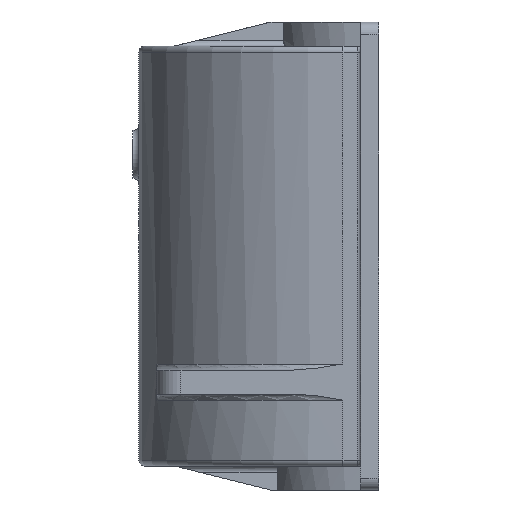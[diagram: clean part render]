
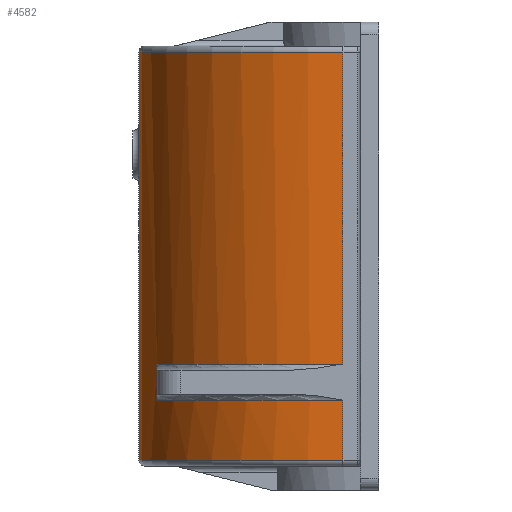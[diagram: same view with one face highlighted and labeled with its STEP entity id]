
A CAD part, left-side view. The second image highlights one B-rep face of the part: STEP entity #4582.
In plain terms, the highlighted cylindrical face has radius 170 mm (diameter 340 mm), a partial arc.
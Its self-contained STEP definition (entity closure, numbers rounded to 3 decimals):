
#386=FACE_OUTER_BOUND('',#629,.T.);
#629=EDGE_LOOP('',(#3449,#3450,#3451,#3452,#3453,#3454,#3455,#3456));
#1030=LINE('',#7316,#1402);
#1034=LINE('',#7337,#1406);
#1035=LINE('',#7342,#1407);
#1036=LINE('',#7344,#1408);
#1402=VECTOR('',#5916,10.);
#1406=VECTOR('',#5920,10.);
#1407=VECTOR('',#5925,10.);
#1408=VECTOR('',#5928,10.);
#1801=CIRCLE('',#4978,170.);
#1822=CIRCLE('',#5008,170.);
#1825=CIRCLE('',#5016,170.);
#1826=CIRCLE('',#5017,170.);
#2083=VERTEX_POINT('',#7187);
#2085=VERTEX_POINT('',#7193);
#2119=VERTEX_POINT('',#7287);
#2120=VERTEX_POINT('',#7291);
#2123=VERTEX_POINT('',#7315);
#2128=VERTEX_POINT('',#7330);
#2129=VERTEX_POINT('',#7339);
#2130=VERTEX_POINT('',#7341);
#2599=EDGE_CURVE('',#2085,#2083,#1801,.T.);
#2644=EDGE_CURVE('',#2119,#2120,#1822,.T.);
#2651=EDGE_CURVE('',#2120,#2123,#1030,.T.);
#2657=EDGE_CURVE('',#2128,#2085,#1034,.T.);
#2658=EDGE_CURVE('',#2129,#2128,#1825,.T.);
#2659=EDGE_CURVE('',#2129,#2130,#1035,.T.);
#2660=EDGE_CURVE('',#2123,#2130,#1826,.T.);
#2661=EDGE_CURVE('',#2083,#2119,#1036,.T.);
#3449=ORIENTED_EDGE('',*,*,#2599,.F.);
#3450=ORIENTED_EDGE('',*,*,#2657,.F.);
#3451=ORIENTED_EDGE('',*,*,#2658,.F.);
#3452=ORIENTED_EDGE('',*,*,#2659,.T.);
#3453=ORIENTED_EDGE('',*,*,#2660,.F.);
#3454=ORIENTED_EDGE('',*,*,#2651,.F.);
#3455=ORIENTED_EDGE('',*,*,#2644,.F.);
#3456=ORIENTED_EDGE('',*,*,#2661,.F.);
#4435=CYLINDRICAL_SURFACE('',#5015,170.);
#4582=ADVANCED_FACE('',(#386),#4435,.T.);
#4978=AXIS2_PLACEMENT_3D('',#7195,#5816,#5817);
#5008=AXIS2_PLACEMENT_3D('',#7293,#5899,#5900);
#5015=AXIS2_PLACEMENT_3D('',#7338,#5921,#5922);
#5016=AXIS2_PLACEMENT_3D('',#7340,#5923,#5924);
#5017=AXIS2_PLACEMENT_3D('',#7343,#5926,#5927);
#5816=DIRECTION('center_axis',(0.,0.,-1.));
#5817=DIRECTION('ref_axis',(-0.707,0.707,0.));
#5899=DIRECTION('center_axis',(0.,0.,1.));
#5900=DIRECTION('ref_axis',(-0.707,0.707,0.));
#5916=DIRECTION('',(0.,0.,-1.));
#5920=DIRECTION('',(0.,0.,-1.));
#5921=DIRECTION('center_axis',(0.,0.,1.));
#5922=DIRECTION('ref_axis',(0.,1.,0.));
#5923=DIRECTION('center_axis',(0.,0.,1.));
#5924=DIRECTION('ref_axis',(-0.84,0.543,0.));
#5925=DIRECTION('',(0.,0.,1.));
#5926=DIRECTION('center_axis',(0.,0.,-1.));
#5927=DIRECTION('ref_axis',(-0.84,0.543,0.));
#5928=DIRECTION('',(0.,0.,1.));
#7187=CARTESIAN_POINT('',(200.,200.,-170.));
#7193=CARTESIAN_POINT('',(30.,30.,-170.));
#7195=CARTESIAN_POINT('Origin',(200.,30.,-170.));
#7287=CARTESIAN_POINT('',(200.,200.,170.));
#7291=CARTESIAN_POINT('',(30.,30.,170.));
#7293=CARTESIAN_POINT('Origin',(200.,30.,170.));
#7315=CARTESIAN_POINT('',(30.,30.,-90.));
#7316=CARTESIAN_POINT('',(30.,30.,0.));
#7330=CARTESIAN_POINT('',(30.,30.,-120.));
#7337=CARTESIAN_POINT('',(30.,30.,0.));
#7338=CARTESIAN_POINT('Origin',(200.,30.,0.));
#7339=CARTESIAN_POINT('',(130.179,185.,-120.));
#7340=CARTESIAN_POINT('Origin',(200.,30.,-120.));
#7341=CARTESIAN_POINT('',(130.179,185.,-90.));
#7342=CARTESIAN_POINT('',(130.179,185.,0.));
#7343=CARTESIAN_POINT('Origin',(200.,30.,-90.));
#7344=CARTESIAN_POINT('',(200.,200.,0.));
